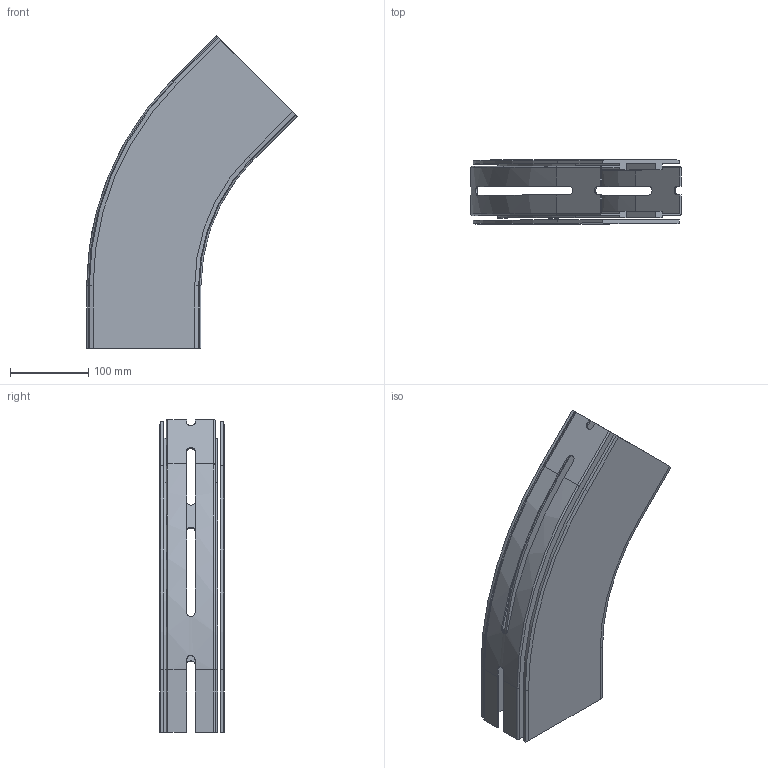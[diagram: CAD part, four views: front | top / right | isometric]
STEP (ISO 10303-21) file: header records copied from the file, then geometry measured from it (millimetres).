
FILE_DESCRIPTION(/* description */ ('GLIDKURVA SERIE 540'),/* implementation_level */ '2;1');
FILE_NAME(/* name */ '540-5375+140-2000-01.stp',/* time_stamp */ '2022-09-21T08:14:05+02:00',/* author */ ('Mathias.Dore'),/* organization */ ('CARRYLINE'),/* preprocessor_version */ 'ST-DEVELOPER v19.2',/* originating_system */ 'Autodesk Inventor 2023',/* authorisation */ '');
FILE_SCHEMA (('AUTOMOTIVE_DESIGN { 1 0 10303 214 3 1 1 }'));
Length unit declared in the file: millimetre
Products named in the file (1): 540-5375+140-2000-01
Bounding box: 269.06 x 82 x 400.32 mm (x, y, z)
Volume: 894092.8 mm3; surface area: 463041.5 mm2
Topology: 2 solids, 2 shells, 171 faces, 482 edges, 316 vertices
Faces by surface type: plane 113, cylinder 32, bspline 18, cone 4, torus 4
Entity records: 5889 total; most frequent: CARTESIAN_POINT 1400, ORIENTED_EDGE 964, DIRECTION 842, EDGE_CURVE 482, LINE 358, VECTOR 358, VERTEX_POINT 316, AXIS2_PLACEMENT_3D 242
